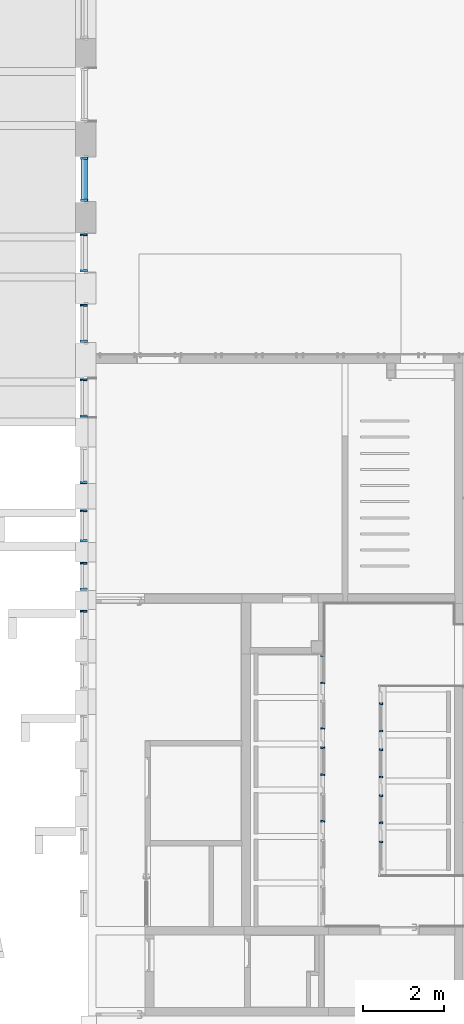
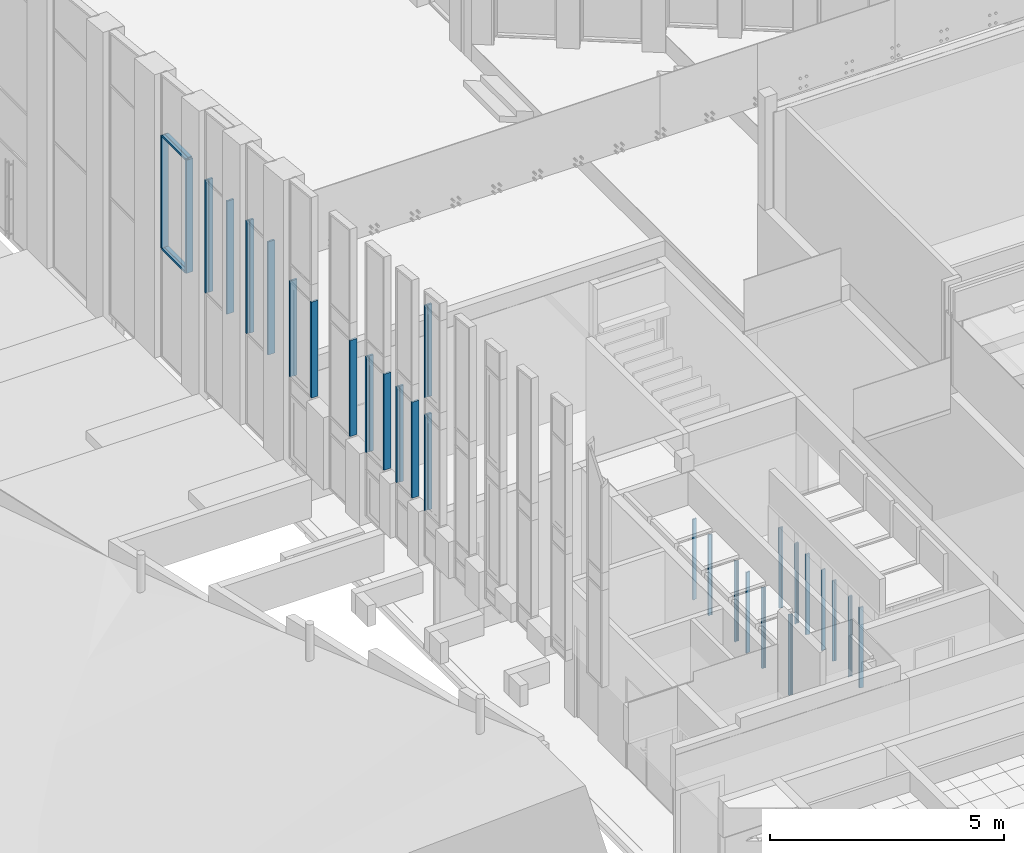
# One storey, part 6 of 246: 30 members, 10 elements without a shape of their own.
"""IFC2X3 building model written with IfcOpenShell, lengths in millimetres."""

from ifc_helpers import new_model, entity, si_unit, converted_unit, derived_unit, money_unit, direction, frame, origin_with_axes, place, context, subcontext, project, spatial, faceted_brep, source, transform, mapped, material, material_list, type_object, element, aggregate, save


model = new_model("IFC2X3")

# Units and contexts
model_context = context("Model", 3, precision=0.01, world=origin_with_axes(), true_north=direction((0.0, 1.0)))
body_context = subcontext(model_context, "Body", "Model", "MODEL_VIEW")
ifc_project = project(units=[si_unit("LENGTHUNIT", "METRE", prefix="MILLI"), si_unit("AREAUNIT", "SQUARE_METRE"), si_unit("VOLUMEUNIT", "CUBIC_METRE"), converted_unit("PLANEANGLEUNIT", "DEGREE", entity("IfcPlaneAngleMeasure", 0.0174532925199), si_unit("PLANEANGLEUNIT", "RADIAN"), dimensions=[0, 0, 0, 0, 0, 0, 0]), si_unit("SOLIDANGLEUNIT", "STERADIAN"), money_unit("EUR"), converted_unit("TIMEUNIT", "Year", entity("IfcTimeMeasure", 31556926.0), si_unit("TIMEUNIT", "SECOND"), dimensions=[0, 0, 1, 0, 0, 0, 0]), si_unit("MASSUNIT", "GRAM", prefix="KILO"), si_unit("THERMODYNAMICTEMPERATUREUNIT", "DEGREE_CELSIUS"), si_unit("LUMINOUSINTENSITYUNIT", "LUMEN"), si_unit("ENERGYUNIT", "JOULE", prefix="MEGA"), derived_unit("THERMALCONDUCTANCEUNIT", [(si_unit("POWERUNIT", "WATT"), 1), (si_unit("LENGTHUNIT", "METRE"), -1), (si_unit("THERMODYNAMICTEMPERATUREUNIT", "KELVIN"), -1)]), derived_unit("SPECIFICHEATCAPACITYUNIT", [(si_unit("ENERGYUNIT", "JOULE"), 1), (si_unit("MASSUNIT", "GRAM", prefix="KILO"), -1), (si_unit("THERMODYNAMICTEMPERATUREUNIT", "KELVIN"), -1)]), derived_unit("MASSDENSITYUNIT", [(si_unit("MASSUNIT", "GRAM", prefix="KILO"), 1), (si_unit("VOLUMEUNIT", "CUBIC_METRE"), -1)])], contexts=[model_context])

# Site, building, storey
site_placement = place(None, origin_with_axes())
site = spatial("IfcSite", under=ifc_project, at=site_placement, Name="L.Koidula tn 11b", CompositionType="ELEMENT")
building_placement = place(site_placement, origin_with_axes())
building = spatial("IfcBuilding", under=site, at=building_placement, Name="Rakvere Riigigümnaasium", CompositionType="ELEMENT")
storey_placement = place(building_placement, origin_with_axes())
storey = spatial("IfcBuildingStorey", under=building, at=storey_placement, Name="1.korrus 0,00", CompositionType="ELEMENT", Elevation=0.0)

# Curtain wall, members
curtain_wall_type = type_object("IfcCurtainWallType", Name="Curtain Wall Type", PredefinedType="NOTDEFINED")
curtain_wall_1_placement = place(storey_placement, frame((35156.0871538, 30435.4555151, 1604.94683277), z_axis=(0.0, 0.0, 1.0), x_axis=(1.0, 0.0, 0.0)))
curtain_wall_1 = element("IfcCurtainWall", 1, at=curtain_wall_1_placement, inside=storey, type_object=curtain_wall_type, Name="KLF-04-01")
ifc_material_1 = material(Name="Alumiiniumprofiil (RAL 7021)")
member_type_1 = type_object("IfcMemberType", Name="Boundary Frame 50 x 170", PredefinedType="MULLION")
shared_shape_1 = source(origin_with_axes(), body_context, "Body", "Brep", [
    faceted_brep([(37.0, -26.0, 2500.00000122), (37.0, 26.0, 2500.00000122), (50.0, 26.0, 2500.00000122), (50.0, 46.0, 2500.00000122), (0.0, 46.0, 2500.00000122), (0.0, -124.0, 2500.00000122), (50.0, -124.0, 2500.00000122), (50.0, -26.0, 2500.00000122), (37.0, -26.0, 0.0), (37.0, 26.0, 0.0), (50.0, 26.0, 0.0), (50.0, 46.0, 0.0), (0.0, 46.0, 0.0), (0.0, -124.0, 0.0), (50.0, -124.0, 0.0), (50.0, -26.0, 0.0)], [[[0, 1, 2, 3, 4, 5, 6, 7]], [[1, 0, 8, 9]], [[10, 2, 1, 9]], [[2, 10, 11, 3]], [[12, 4, 3, 11]], [[13, 5, 4, 12]], [[14, 6, 5, 13]], [[15, 7, 6, 14]], [[0, 7, 15, 8]], [[8, 15, 14, 13, 12, 11, 10, 9]]]),
])
member_1_placement = place(curtain_wall_1_placement, frame((0.0, -475.000067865, 2140.00006988), z_axis=(0.0, 0.0, 1.0), x_axis=(0.0, 1.0, 0.0)))
member_1 = element("IfcMember", 2, at=member_1_placement, type_object=member_type_1, material=ifc_material_1, Name="KLF-04-54-Profiilid", ObjectType="MULLION", context=body_context, shape_type="MappedRepresentation", body=[
    mapped(shared_shape_1, transform((0.0, 0.0, 0.0))),
])
member_2_placement = place(curtain_wall_1_placement, frame((0.0, 475.000067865, 4640.00006988), z_axis=(0.0, 0.0, -1.0), x_axis=(0.0, -1.0, 0.0)))
member_2 = element("IfcMember", 3, at=member_2_placement, type_object=member_type_1, material=ifc_material_1, Name="KLF-04-60-Profiilid", ObjectType="MULLION", context=body_context, shape_type="MappedRepresentation", body=[
    mapped(shared_shape_1, transform((0.0, 0.0, 0.0))),
])
aggregate(curtain_wall_1, [member_1, member_2])

# Curtain wall, member
curtain_wall_2_placement = place(storey_placement, frame((35156.0871538, 28760.4555979, 1840.0), z_axis=(0.0, 0.0, 1.0), x_axis=(1.0, 0.0, 0.0)))
curtain_wall_2 = element("IfcCurtainWall", 4, at=curtain_wall_2_placement, inside=storey, type_object=curtain_wall_type, Name="KLF-04-02")
member_3_placement = place(curtain_wall_2_placement, frame((0.0, -449.999957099, 1905.00005204), z_axis=(0.0, 0.0, 1.0), x_axis=(0.0, 1.0, 0.0)))
member_3 = element("IfcMember", 5, at=member_3_placement, type_object=member_type_1, material=ifc_material_1, Name="KLF-04-92-Profiilid", ObjectType="MULLION", context=body_context, shape_type="MappedRepresentation", body=[
    mapped(shared_shape_1, transform((0.0, 0.0, 0.0))),
])
aggregate(curtain_wall_2, [member_3])

# Curtain wall, members
curtain_wall_3_placement = place(storey_placement, frame((35156.0871538, 27260.4554897, 2070.0), z_axis=(0.0, 0.0, 1.0), x_axis=(1.0, 0.0, 0.0)))
curtain_wall_3 = element("IfcCurtainWall", 6, at=curtain_wall_3_placement, inside=storey, type_object=curtain_wall_type, Name="KLF-04-03")
member_4_placement = place(curtain_wall_3_placement, frame((0.0, 399.999995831, 4175.00005204), z_axis=(0.0, 0.0, -1.0), x_axis=(0.0, -1.0, 0.0)))
member_4 = element("IfcMember", 7, at=member_4_placement, type_object=member_type_1, material=ifc_material_1, Name="KLF-04-50-Profiilid", ObjectType="MULLION", context=body_context, shape_type="MappedRepresentation", body=[
    mapped(shared_shape_1, transform((0.0, 0.0, 0.0))),
])
member_5_placement = place(curtain_wall_3_placement, frame((0.0, -399.999995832, 1675.00005204), z_axis=(0.0, 0.0, 1.0), x_axis=(0.0, 1.0, 0.0)))
member_5 = element("IfcMember", 8, at=member_5_placement, type_object=member_type_1, material=ifc_material_1, Name="KLF-04-44-Profiilid", ObjectType="MULLION", context=body_context, shape_type="MappedRepresentation", body=[
    mapped(shared_shape_1, transform((0.0, 0.0, 0.0))),
])
aggregate(curtain_wall_3, [member_4, member_5])

curtain_wall_4_placement = place(storey_placement, frame((35156.0871538, 26010.4555274, 2305.0), z_axis=(0.0, 0.0, 1.0), x_axis=(1.0, 0.0, 0.0)))
curtain_wall_4 = element("IfcCurtainWall", 9, at=curtain_wall_4_placement, inside=storey, type_object=curtain_wall_type, Name="KLF-04-04")
member_6_placement = place(curtain_wall_4_placement, frame((0.0, 349.999977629, 3940.00005204), z_axis=(0.0, 0.0, -1.0), x_axis=(0.0, -1.0, 0.0)))
member_6 = element("IfcMember", 10, at=member_6_placement, type_object=member_type_1, material=ifc_material_1, Name="KLF-04-63-Profiilid", ObjectType="MULLION", context=body_context, shape_type="MappedRepresentation", body=[
    mapped(shared_shape_1, transform((0.0, 0.0, 0.0))),
])
member_7_placement = place(curtain_wall_4_placement, frame((0.0, -350.00003049, 1440.00005204), z_axis=(0.0, 4.2288553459e-08, 1.0), x_axis=(0.0, 1.0, -4.2288553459e-08)))
member_7 = element("IfcMember", 11, at=member_7_placement, type_object=member_type_1, material=ifc_material_1, Name="KLF-04-57-Profiilid", ObjectType="MULLION", context=body_context, shape_type="MappedRepresentation", body=[
    mapped(shared_shape_1, transform((0.0, 0.0, 0.0))),
])
aggregate(curtain_wall_4, [member_6, member_7])

# Curtain wall, member
curtain_wall_5_placement = place(storey_placement, frame((35156.0871538, 24810.4554726, 2540.0), z_axis=(0.0, 0.0, 1.0), x_axis=(1.0, 0.0, 0.0)))
curtain_wall_5 = element("IfcCurtainWall", 12, at=curtain_wall_5_placement, inside=storey, type_object=curtain_wall_type, Name="KLF-04-05")
member_8_placement = place(curtain_wall_5_placement, frame((0.0, 350.000000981, 3705.00005204), z_axis=(0.0, 0.0, -1.0), x_axis=(0.0, -1.0, 0.0)))
member_8 = element("IfcMember", 13, at=member_8_placement, type_object=member_type_1, material=ifc_material_1, Name="KLF-04-60-Profiilid", ObjectType="MULLION", context=body_context, shape_type="MappedRepresentation", body=[
    mapped(shared_shape_1, transform((0.0, 0.0, 0.0))),
])

# Curtain wall, members
curtain_wall_6_placement = place(storey_placement, frame((41170.0073165, 24038.4555472, 1.56205997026e-05), z_axis=(0.0, 0.0, 1.0), x_axis=(1.0, 0.0, 0.0)))
curtain_wall_6 = element("IfcCurtainWall", 14, at=curtain_wall_6_placement, inside=storey, type_object=curtain_wall_type, Name="SUS-01")
ifc_material_2 = material(Name="MDF")
ifc_material_3 = material(Name="Alumiiniumprofiil")
ifc_material_list = material_list([ifc_material_2, ifc_material_3])
member_type_2 = type_object("IfcMemberType", Name="SA-Siseuksesüsteem-V 46 x 0", PredefinedType="MULLION")
shared_shape_2 = source(origin_with_axes(), body_context, "Body", "Brep", [
    faceted_brep([(-1.99999958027, 10.0000006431, 0.0), (-33.9999997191, 9.99997870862, 0.0), (-33.9999997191, 9.99997870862, 2099.99998859), (-1.99999958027, 10.0000006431, 2099.99998859), (-2.00000095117, 0.0, 0.0), (-33.9999997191, 0.0, 0.0), (-33.9999997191, 0.0, 2099.99998859), (-2.00000095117, 0.0, 2099.99998859)], [[[0, 1, 2, 3]], [[0, 4, 5, 1]], [[1, 5, 6, 2]], [[3, 2, 6, 7]], [[4, 0, 3, 7]], [[5, 4, 7, 6]]]),
    faceted_brep([(10.0000006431, 91.9999779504, 0.0), (-33.9999997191, 91.9999779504, 0.0), (-33.9999997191, 91.9999779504, 2099.99998859), (10.0000006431, 91.9999779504, 2099.99998859), (10.0000294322, 81.9999773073, 0.0), (-33.9999997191, 81.9999773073, 0.0), (-33.9999997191, 81.9999773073, 2099.99998859), (10.0000294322, 81.9999773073, 2099.99998859)], [[[0, 1, 2, 3]], [[0, 4, 5, 1]], [[1, 5, 6, 2]], [[3, 2, 6, 7]], [[4, 0, 3, 7]], [[5, 4, 7, 6]]]),
    faceted_brep([(12.0000002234, 47.5000006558, 0.0), (12.0000002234, 91.9999779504, 0.0), (12.0000002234, 91.9999779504, 2099.99998859), (12.0000002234, 47.5000006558, 2099.99998859), (0.0, 47.5000006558, 0.0), (0.0, 32.9000011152, 0.0), (0.0, 0.0, 0.0), (-2.00000095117, 0.0, 0.0), (-1.99999958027, 10.0000006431, 0.0), (-2.00000095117, 10.49999951, 0.0), (-32.0000001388, 10.49999951, 0.0), (-32.0000001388, 9.99997870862, 0.0), (-33.9999997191, 9.99997870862, 0.0), (-33.9999997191, 13.9999998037, 0.0), (-22.4999997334, 13.9999998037, 0.0), (-22.4999997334, 44.3999997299, 0.0), (-33.9999997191, 44.3999997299, 0.0), (-33.9999997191, 47.600000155, 0.0), (-22.4999997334, 47.600000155, 0.0), (-22.4999997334, 78.0000000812, 0.0), (-33.9999997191, 78.0000000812, 0.0), (-33.9999997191, 81.5000003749, 0.0), (-24.2499991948, 81.5000003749, 0.0), (9.99999927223, 81.5000003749, 0.0), (10.0000294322, 81.9999773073, 0.0), (10.0000006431, 91.9999779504, 0.0), (10.0000006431, 91.9999779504, 2099.99998859), (10.0000294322, 81.9999773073, 2099.99998859), (9.99999927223, 81.5000003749, 2099.99998859), (-24.2499991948, 81.5000003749, 2099.99998859), (-33.9999997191, 81.5000003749, 2099.99998859), (-33.9999997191, 78.0000000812, 2099.99998859), (-22.4999997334, 78.0000000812, 2099.99998859), (-22.4999997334, 47.600000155, 2099.99998859), (-33.9999997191, 47.600000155, 2099.99998859), (-33.9999997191, 44.3999997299, 2099.99998859), (-22.4999997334, 44.3999997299, 2099.99998859), (-22.4999997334, 13.9999998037, 2099.99998859), (-33.9999997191, 13.9999998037, 2099.99998859), (-33.9999997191, 9.99997870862, 2099.99998859), (-32.0000001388, 9.99997870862, 2099.99998859), (-32.0000001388, 10.49999951, 2099.99998859), (-2.00000095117, 10.49999951, 2099.99998859), (-1.99999958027, 10.0000006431, 2099.99998859), (-2.00000095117, 0.0, 2099.99998859), (0.0, 0.0, 2099.99998859), (0.0, 32.9000011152, 2099.99998859), (0.0, 47.5000006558, 2099.99998859)], [[[0, 1, 2, 3]], [[0, 4, 5, 6, 7, 8, 9, 10, 11, 12, 13, 14, 15, 16, 17, 18, 19, 20, 21, 22, 23, 24, 25, 1]], [[1, 25, 26, 2]], [[3, 2, 26, 27, 28, 29, 30, 31, 32, 33, 34, 35, 36, 37, 38, 39, 40, 41, 42, 43, 44, 45, 46, 47]], [[4, 0, 3, 47]], [[5, 4, 47, 46]], [[6, 5, 46, 45]], [[7, 6, 45, 44]], [[8, 7, 44, 43]], [[9, 8, 43, 42]], [[10, 9, 42, 41]], [[11, 10, 41, 40]], [[12, 11, 40, 39]], [[13, 12, 39, 38]], [[14, 13, 38, 37]], [[15, 14, 37, 36]], [[16, 15, 36, 35]], [[17, 16, 35, 34]], [[18, 17, 34, 33]], [[19, 18, 33, 32]], [[20, 19, 32, 31]], [[21, 20, 31, 30]], [[22, 21, 30, 29]], [[23, 22, 29, 28]], [[24, 23, 28, 27]], [[25, 24, 27, 26]]]),
])
member_9_placement = place(curtain_wall_6_placement, frame((0.0, -667.000034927, -1.56205997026e-05), z_axis=(0.0, 0.0, 1.0), x_axis=(0.0, 1.0, 0.0)))
member_9 = element("IfcMember", 15, at=member_9_placement, type_object=member_type_2, material=ifc_material_list, Name="Frame-New-Frame-018", ObjectType="MULLION", context=body_context, shape_type="MappedRepresentation", body=[
    mapped(shared_shape_2, transform((0.0, 0.0, 0.0))),
])
member_10_placement = place(curtain_wall_6_placement, frame((0.0, -1797.00003493, -1.56205997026e-05), z_axis=(0.0, 0.0, 1.0), x_axis=(0.0, 1.0, 0.0)))
member_10 = element("IfcMember", 16, at=member_10_placement, type_object=member_type_2, material=ifc_material_list, Name="Frame-New-Frame-019", ObjectType="MULLION", context=body_context, shape_type="MappedRepresentation", body=[
    mapped(shared_shape_2, transform((0.0, 0.0, 0.0))),
])
member_11_placement = place(curtain_wall_6_placement, frame((0.0, -2947.00003493, -1.56205997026e-05), z_axis=(0.0, 0.0, 1.0), x_axis=(0.0, 1.0, 0.0)))
member_11 = element("IfcMember", 17, at=member_11_placement, type_object=member_type_2, material=ifc_material_list, Name="Frame-New-Frame-020", ObjectType="MULLION", context=body_context, shape_type="MappedRepresentation", body=[
    mapped(shared_shape_2, transform((0.0, 0.0, 0.0))),
])
member_12_placement = place(curtain_wall_6_placement, frame((0.0, -4097.00003493, -1.56205997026e-05), z_axis=(0.0, 0.0, 1.0), x_axis=(0.0, 1.0, 0.0)))
member_12 = element("IfcMember", 18, at=member_12_placement, type_object=member_type_2, material=ifc_material_list, Name="Frame-New-Frame-021", ObjectType="MULLION", context=body_context, shape_type="MappedRepresentation", body=[
    mapped(shared_shape_2, transform((0.0, 0.0, 0.0))),
])

curtain_wall_7_placement = place(storey_placement, frame((42519.9999626, 19079.4634323, 0.0), z_axis=(0.0, 0.0, 1.0), x_axis=(1.0, 0.0, 0.0)))
curtain_wall_7 = element("IfcCurtainWall", 19, at=curtain_wall_7_placement, inside=storey, type_object=curtain_wall_type, Name="SUS-02")
member_13_placement = place(curtain_wall_7_placement, frame((0.0, 325.007919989, 0.0), z_axis=(0.0, 0.0, 1.0), x_axis=(0.0, -1.0, 0.0)))
member_13 = element("IfcMember", 20, at=member_13_placement, type_object=member_type_2, material=ifc_material_list, Name="Frame-New-Frame-018", ObjectType="MULLION", context=body_context, shape_type="MappedRepresentation", body=[
    mapped(shared_shape_2, transform((0.0, 0.0, 0.0))),
])
member_14_placement = place(curtain_wall_7_placement, frame((0.0, 1470.00791999, 0.0), z_axis=(0.0, 0.0, 1.0), x_axis=(0.0, -1.0, 0.0)))
member_14 = element("IfcMember", 21, at=member_14_placement, type_object=member_type_2, material=ifc_material_list, Name="Frame-New-Frame-019", ObjectType="MULLION", context=body_context, shape_type="MappedRepresentation", body=[
    mapped(shared_shape_2, transform((0.0, 0.0, 0.0))),
])
member_15_placement = place(curtain_wall_7_placement, frame((0.0, 2610.00791999, 0.0), z_axis=(0.0, 0.0, 1.0), x_axis=(0.0, -1.0, 0.0)))
member_15 = element("IfcMember", 22, at=member_15_placement, type_object=member_type_2, material=ifc_material_list, Name="Frame-New-Frame-020", ObjectType="MULLION", context=body_context, shape_type="MappedRepresentation", body=[
    mapped(shared_shape_2, transform((0.0, 0.0, 0.0))),
])
member_16_placement = place(curtain_wall_7_placement, frame((0.0, 3750.00791999, 0.0), z_axis=(0.0, 0.0, 1.0), x_axis=(0.0, -1.0, 0.0)))
member_16 = element("IfcMember", 23, at=member_16_placement, type_object=member_type_2, material=ifc_material_list, Name="Frame-New-Frame-021", ObjectType="MULLION", context=body_context, shape_type="MappedRepresentation", body=[
    mapped(shared_shape_2, transform((0.0, 0.0, 0.0))),
])

# Member
shared_shape_3 = source(origin_with_axes(), body_context, "Body", "Brep", [
    faceted_brep([(37.0, -26.0, 2400.0), (37.0, 26.0, 2400.0), (50.0, 26.0, 2400.0), (50.0, 46.0, 2400.0), (0.0, 46.0, 2400.0), (0.0, -124.0, 2400.0), (50.0, -124.0, 2400.0), (50.0, -26.0, 2400.0), (37.0, -26.0, 0.0), (37.0, 26.0, 0.0), (50.0, 26.0, 0.0), (50.0, 46.0, 0.0), (0.0, 46.0, 0.0), (0.0, -124.0, 0.0), (50.0, -124.0, 0.0), (50.0, -26.0, 0.0)], [[[0, 1, 2, 3, 4, 5, 6, 7]], [[1, 0, 8, 9]], [[10, 2, 1, 9]], [[2, 10, 11, 3]], [[12, 4, 3, 11]], [[13, 5, 4, 12]], [[14, 6, 5, 13]], [[15, 7, 6, 14]], [[0, 7, 15, 8]], [[8, 15, 14, 13, 12, 11, 10, 9]]]),
])
member_17_placement = place(curtain_wall_5_placement, frame((0.0, 350.000000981, 6550.00005204), z_axis=(0.0, 0.0, -1.0), x_axis=(0.0, -1.0, 0.0)))
member_17 = element("IfcMember", 24, at=member_17_placement, type_object=member_type_1, material=ifc_material_1, Name="KLF-04-58-Profiilid", ObjectType="MULLION", context=body_context, shape_type="MappedRepresentation", body=[
    mapped(shared_shape_3, transform((0.0, 0.0, 0.0))),
])

aggregate(curtain_wall_5, [member_8, member_17])

# Curtain wall, member
curtain_wall_8_placement = place(storey_placement, frame((35166.0871538, 35860.1924029, 909.999937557), z_axis=(0.0, 0.0, 1.0), x_axis=(1.0, 0.0, 0.0)))
curtain_wall_8 = element("IfcCurtainWall", 25, at=curtain_wall_8_placement, inside=storey, type_object=curtain_wall_type, Name="KLF-03-04")
shared_shape_4 = source(origin_with_axes(), body_context, "Body", "Brep", [
    faceted_brep([(37.0, -26.0, 2945.00000007), (37.0, 26.0, 2945.00000007), (50.0, 26.0, 2945.00000007), (50.0, 46.0, 2945.00000007), (0.0, 46.0, 2945.00000007), (0.0, -124.0, 2945.00000007), (50.0, -124.0, 2945.00000007), (50.0, -26.0, 2945.00000007), (37.0, -26.0, -7.00453028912e-08), (37.0, 26.0, -7.00453028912e-08), (50.0, 26.0, -7.00453028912e-08), (50.0, 46.0, -7.00453028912e-08), (0.0, 46.0, -7.00453028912e-08), (0.0, -124.0, -7.00453028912e-08), (50.0, -124.0, -7.00453028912e-08), (50.0, -26.0, -7.00453028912e-08)], [[[0, 1, 2, 3, 4, 5, 6, 7]], [[1, 0, 8, 9]], [[10, 2, 1, 9]], [[2, 10, 11, 3]], [[12, 4, 3, 11]], [[13, 5, 4, 12]], [[14, 6, 5, 13]], [[15, 7, 6, 14]], [[0, 7, 15, 8]], [[8, 15, 14, 13, 12, 11, 10, 9]]]),
])
member_18_placement = place(curtain_wall_8_placement, frame((0.0, -549.999920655, 2835.0000985), z_axis=(0.0, -2.98766427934e-08, 1.0), x_axis=(0.0, 1.0, 2.98766427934e-08)))
member_18 = element("IfcMember", 26, at=member_18_placement, type_object=member_type_1, material=ifc_material_1, Name="KLF-03-58-Profiilid", ObjectType="MULLION", context=body_context, shape_type="MappedRepresentation", body=[
    mapped(shared_shape_4, transform((0.0, 0.0, 0.0))),
])

# Curtain wall, members
curtain_wall_9_placement = place(storey_placement, frame((35156.0871538, 34035.34119, 1144.99990202), z_axis=(0.0, 0.0, 1.0), x_axis=(1.0, 0.0, 0.0)))
curtain_wall_9 = element("IfcCurtainWall", 27, at=curtain_wall_9_placement, inside=storey, type_object=curtain_wall_type, Name="KLF-03-05")
member_19_placement = place(curtain_wall_9_placement, frame((0.0, 475.000039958, 5545.00013945), z_axis=(0.0, 0.0, -1.0), x_axis=(0.0, -1.0, 0.0)))
member_19 = element("IfcMember", 28, at=member_19_placement, type_object=member_type_1, material=ifc_material_1, Name="KLF-03-29-Profiilid", ObjectType="MULLION", context=body_context, shape_type="MappedRepresentation", body=[
    mapped(shared_shape_4, transform((0.0, 0.0, 0.0))),
])
member_20_placement = place(curtain_wall_9_placement, frame((0.0, -475.000016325, 2600.00013945), z_axis=(0.0, -1.60498696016e-08, 1.0), x_axis=(0.0, 1.0, 1.60498696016e-08)))
member_20 = element("IfcMember", 29, at=member_20_placement, type_object=member_type_1, material=ifc_material_1, Name="KLF-03-25-Profiilid", ObjectType="MULLION", context=body_context, shape_type="MappedRepresentation", body=[
    mapped(shared_shape_4, transform((0.0, 0.0, 0.0))),
])
aggregate(curtain_wall_9, [member_19, member_20])

curtain_wall_10_placement = place(storey_placement, frame((35156.0871538, 32285.4558039, 1374.99993164), z_axis=(0.0, 0.0, 1.0), x_axis=(1.0, 0.0, 0.0)))
curtain_wall_10 = element("IfcCurtainWall", 30, at=curtain_wall_10_placement, inside=storey, type_object=curtain_wall_type, Name="KLF-03-06")
member_21_placement = place(curtain_wall_10_placement, frame((0.0, 474.999815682, 5315.00014685), z_axis=(0.0, 0.0, -1.0), x_axis=(0.0, -1.0, 0.0)))
member_21 = element("IfcMember", 31, at=member_21_placement, type_object=member_type_1, material=ifc_material_1, Name="KLF-03-56-Profiilid", ObjectType="MULLION", context=body_context, shape_type="MappedRepresentation", body=[
    mapped(shared_shape_4, transform((0.0, 0.0, 0.0))),
])
member_22_placement = place(curtain_wall_10_placement, frame((0.0, -474.999970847, 2370.00014685), z_axis=(0.0, 4.11700271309e-08, 1.0), x_axis=(0.0, 1.0, -4.11700271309e-08)))
member_22 = element("IfcMember", 32, at=member_22_placement, type_object=member_type_1, material=ifc_material_1, Name="KLF-03-52-Profiilid", ObjectType="MULLION", context=body_context, shape_type="MappedRepresentation", body=[
    mapped(shared_shape_4, transform((0.0, 0.0, 0.0))),
])
aggregate(curtain_wall_10, [member_21, member_22])

# Member
member_type_3 = type_object("IfcMemberType", Name="SA-Siseuksesüsteem-P 46 x 0", PredefinedType="MULLION")
shared_shape_5 = source(origin_with_axes(), body_context, "Body", "Brep", [
    faceted_brep([(33.9999997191, 9.99997870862, 0.0), (1.99999958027, 10.0000006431, 0.0), (1.99999958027, 10.0000006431, 2099.99998859), (33.9999997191, 9.99997870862, 2099.99998859), (33.9999997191, 0.0, 0.0), (1.99999958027, 0.0, 0.0), (1.99999958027, 0.0, 2099.99998859), (33.9999997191, 0.0, 2099.99998859)], [[[0, 1, 2, 3]], [[0, 4, 5, 1]], [[1, 5, 6, 2]], [[3, 2, 6, 7]], [[4, 0, 3, 7]], [[5, 4, 7, 6]]]),
    faceted_brep([(33.9999997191, 91.9999779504, 0.0), (-10.0000294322, 91.9999779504, 0.0), (-10.0000294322, 91.9999779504, 2099.99998859), (33.9999997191, 91.9999779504, 2099.99998859), (33.9999997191, 81.9999773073, 0.0), (-10.0000294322, 81.9999773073, 0.0), (-10.0000294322, 81.9999773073, 2099.99998859), (33.9999997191, 81.9999773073, 2099.99998859)], [[[0, 1, 2, 3]], [[0, 4, 5, 1]], [[1, 5, 6, 2]], [[3, 2, 6, 7]], [[4, 0, 3, 7]], [[5, 4, 7, 6]]]),
    faceted_brep([(-12.0000002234, 47.5000006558, 0.0), (0.0, 47.5000006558, 0.0), (0.0, 47.5000006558, 2099.99998859), (-12.0000002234, 47.5000006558, 2099.99998859), (-12.0000002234, 91.9999779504, 0.0), (-10.0000006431, 91.9999779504, 0.0), (-10.0000294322, 81.9999773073, 0.0), (-9.99999927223, 81.5000003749, 0.0), (24.2499991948, 81.5000003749, 0.0), (33.9999997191, 81.5000003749, 0.0), (33.9999997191, 78.0000000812, 0.0), (22.4999997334, 78.0000000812, 0.0), (22.4999997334, 47.600000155, 0.0), (33.9999997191, 47.600000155, 0.0), (33.9999997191, 44.3999997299, 0.0), (22.4999997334, 44.3999997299, 0.0), (22.4999997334, 13.9999998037, 0.0), (33.9999997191, 13.9999998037, 0.0), (33.9999997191, 9.99997870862, 0.0), (32.0000001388, 9.99997870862, 0.0), (32.0000001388, 10.49999951, 0.0), (2.00000095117, 10.49999951, 0.0), (1.99999958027, 10.0000006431, 0.0), (2.00000095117, 0.0, 0.0), (0.0, 0.0, 0.0), (0.0, 32.9000011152, 0.0), (0.0, 32.9000011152, 2099.99998859), (0.0, 0.0, 2099.99998859), (2.00000095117, 0.0, 2099.99998859), (1.99999958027, 10.0000006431, 2099.99998859), (2.00000095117, 10.49999951, 2099.99998859), (32.0000001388, 10.49999951, 2099.99998859), (32.0000001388, 9.99997870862, 2099.99998859), (33.9999997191, 9.99997870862, 2099.99998859), (33.9999997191, 13.9999998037, 2099.99998859), (22.4999997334, 13.9999998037, 2099.99998859), (22.4999997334, 44.3999997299, 2099.99998859), (33.9999997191, 44.3999997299, 2099.99998859), (33.9999997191, 47.600000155, 2099.99998859), (22.4999997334, 47.600000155, 2099.99998859), (22.4999997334, 78.0000000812, 2099.99998859), (33.9999997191, 78.0000000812, 2099.99998859), (33.9999997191, 81.5000003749, 2099.99998859), (24.2499991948, 81.5000003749, 2099.99998859), (-9.99999927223, 81.5000003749, 2099.99998859), (-10.0000294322, 81.9999773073, 2099.99998859), (-10.0000006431, 91.9999779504, 2099.99998859), (-12.0000002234, 91.9999779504, 2099.99998859)], [[[0, 1, 2, 3]], [[0, 4, 5, 6, 7, 8, 9, 10, 11, 12, 13, 14, 15, 16, 17, 18, 19, 20, 21, 22, 23, 24, 25, 1]], [[1, 25, 26, 2]], [[3, 2, 26, 27, 28, 29, 30, 31, 32, 33, 34, 35, 36, 37, 38, 39, 40, 41, 42, 43, 44, 45, 46, 47]], [[4, 0, 3, 47]], [[5, 4, 47, 46]], [[6, 5, 46, 45]], [[7, 6, 45, 44]], [[8, 7, 44, 43]], [[9, 8, 43, 42]], [[10, 9, 42, 41]], [[11, 10, 41, 40]], [[12, 11, 40, 39]], [[13, 12, 39, 38]], [[14, 13, 38, 37]], [[15, 14, 37, 36]], [[16, 15, 36, 35]], [[17, 16, 35, 34]], [[18, 17, 34, 33]], [[19, 18, 33, 32]], [[20, 19, 32, 31]], [[21, 20, 31, 30]], [[22, 21, 30, 29]], [[23, 22, 29, 28]], [[24, 23, 28, 27]], [[25, 24, 27, 26]]]),
])
member_23_placement = place(curtain_wall_6_placement, frame((0.0, -17.0, -1.56205997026e-05), z_axis=(0.0, 0.0, 1.0), x_axis=(0.0, 1.0, 0.0)))
member_23 = element("IfcMember", 33, at=member_23_placement, type_object=member_type_3, material=ifc_material_list, Name="Frame-SA-Siseuks-022", ObjectType="MULLION", context=body_context, shape_type="MappedRepresentation", body=[
    mapped(shared_shape_5, transform((0.0, 0.0, 0.0))),
])

member_24_placement = place(curtain_wall_6_placement, frame((0.0, -2297.00003493, -1.56205997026e-05), z_axis=(0.0, 0.0, 1.0), x_axis=(0.0, 1.0, 0.0)))
member_24 = element("IfcMember", 34, at=member_24_placement, type_object=member_type_3, material=ifc_material_list, Name="Frame-SA-Siseuks-018", ObjectType="MULLION", context=body_context, shape_type="MappedRepresentation", body=[
    mapped(shared_shape_5, transform((0.0, 0.0, 0.0))),
])

aggregate(curtain_wall_6, [member_23, member_9, member_10, member_24, member_11, member_12])

member_25_placement = place(curtain_wall_7_placement, frame((0.0, 820.007919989, 0.0), z_axis=(0.0, 0.0, 1.0), x_axis=(0.0, -1.0, 0.0)))
member_25 = element("IfcMember", 35, at=member_25_placement, type_object=member_type_3, material=ifc_material_list, Name="Frame-SA-Siseuks-018", ObjectType="MULLION", context=body_context, shape_type="MappedRepresentation", body=[
    mapped(shared_shape_5, transform((0.0, 0.0, 0.0))),
])

member_26_placement = place(curtain_wall_7_placement, frame((0.0, 1960.00791999, 0.0), z_axis=(0.0, 0.0, 1.0), x_axis=(0.0, -1.0, 0.0)))
member_26 = element("IfcMember", 36, at=member_26_placement, type_object=member_type_3, material=ifc_material_list, Name="Frame-SA-Siseuks-019", ObjectType="MULLION", context=body_context, shape_type="MappedRepresentation", body=[
    mapped(shared_shape_5, transform((0.0, 0.0, 0.0))),
])

member_27_placement = place(curtain_wall_7_placement, frame((0.0, 3100.00791999, 0.0), z_axis=(0.0, 0.0, 1.0), x_axis=(0.0, -1.0, 0.0)))
member_27 = element("IfcMember", 37, at=member_27_placement, type_object=member_type_3, material=ifc_material_list, Name="Frame-SA-Siseuks-020", ObjectType="MULLION", context=body_context, shape_type="MappedRepresentation", body=[
    mapped(shared_shape_5, transform((0.0, 0.0, 0.0))),
])

aggregate(curtain_wall_7, [member_13, member_25, member_14, member_26, member_15, member_27, member_16])

shared_shape_6 = source(origin_with_axes(), body_context, "Body", "Brep", [
    faceted_brep([(-37.0, -26.0, 2945.0), (-50.0, -26.0, 2945.0), (-50.0, -124.0, 2945.0), (0.0, -124.0, 2945.0), (0.0, 46.0, 2945.0), (-50.0, 46.0, 2945.0), (-50.0, 26.0, 2945.0), (-37.0, 26.0, 2945.0), (-37.0, -26.0, 0.0), (-50.0, -26.0, 0.0), (-50.0, -124.0, 0.0), (0.0, -124.0, 0.0), (0.0, 46.0, 0.0), (-50.0, 46.0, 0.0), (-50.0, 26.0, 0.0), (-37.0, 26.0, 0.0)], [[[0, 1, 2, 3, 4, 5, 6, 7]], [[0, 8, 9, 1]], [[9, 10, 2, 1]], [[10, 11, 3, 2]], [[11, 12, 4, 3]], [[12, 13, 5, 4]], [[6, 5, 13, 14]], [[14, 15, 7, 6]], [[7, 15, 8, 0]], [[8, 15, 14, 13, 12, 11, 10, 9]]]),
])
member_28_placement = place(curtain_wall_8_placement, frame((0.0, 549.999964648, 2835.0000985), z_axis=(0.0, 0.0, 1.0), x_axis=(0.0, 1.0, 0.0)))
member_28 = element("IfcMember", 38, at=member_28_placement, type_object=member_type_1, material=ifc_material_1, Name="KLF-03-62-Profiilid", ObjectType="MULLION", context=body_context, shape_type="MappedRepresentation", body=[
    mapped(shared_shape_6, transform((0.0, 0.0, 0.0))),
])

member_type_4 = type_object("IfcMemberType", Name="Transom Frame 50 x 170", PredefinedType="MULLION")
shared_shape_7 = source(origin_with_axes(), body_context, "Body", "Brep", [
    faceted_brep([(-12.0, -26.0, 1049.99997329), (-25.0, -26.0, 1049.99997329), (-25.0, -124.0, 1049.99997329), (25.0, -124.0, 1049.99997329), (25.0, -26.0, 1049.99997329), (12.0, -26.0, 1049.99997329), (12.0, 26.0, 1049.99997329), (25.0, 26.0, 1049.99997329), (25.0, 46.0, 1049.99997329), (-25.0, 46.0, 1049.99997329), (-25.0, 26.0, 1049.99997329), (-12.0, 26.0, 1049.99997329), (-12.0, -26.0, 50.0), (-25.0, -26.0, 50.0), (-25.0, -124.0, 50.0), (25.0, -124.0, 50.0), (25.0, -26.0, 50.0), (12.0, -26.0, 50.0), (12.0, 26.0, 50.0), (25.0, 26.0, 50.0), (25.0, 46.0, 50.0), (-25.0, 46.0, 50.0), (-25.0, 26.0, 50.0), (-12.0, 26.0, 50.0)], [[[0, 1, 2, 3, 4, 5, 6, 7, 8, 9, 10, 11]], [[1, 0, 12, 13]], [[1, 13, 14, 2]], [[2, 14, 15, 3]], [[4, 3, 15, 16]], [[4, 16, 17, 5]], [[5, 17, 18, 6]], [[7, 6, 18, 19]], [[19, 20, 8, 7]], [[8, 20, 21, 9]], [[22, 10, 9, 21]], [[11, 10, 22, 23]], [[0, 11, 23, 12]], [[23, 22, 21, 20, 19, 18, 17, 16, 15, 14, 13, 12]]]),
])
member_29_placement = place(curtain_wall_8_placement, frame((0.0, 549.999964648, 5780.0000985), z_axis=(0.0, -1.0, 0.0), x_axis=(0.0, 0.0, 1.0)))
member_29 = element("IfcMember", 39, at=member_29_placement, type_object=member_type_4, material=ifc_material_1, Name="KLF-03-11-Profiilid", ObjectType="MULLION", context=body_context, shape_type="MappedRepresentation", body=[
    mapped(shared_shape_7, transform((0.0, 0.0, 0.0))),
])

member_30_placement = place(curtain_wall_8_placement, frame((0.0, 549.999964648, 2835.0000985), z_axis=(0.0, -1.0, 0.0), x_axis=(0.0, 0.0, 1.0)))
member_30 = element("IfcMember", 40, at=member_30_placement, type_object=member_type_4, material=ifc_material_1, Name="KLF-03-12-Profiilid", ObjectType="MULLION", context=body_context, shape_type="MappedRepresentation", body=[
    mapped(shared_shape_7, transform((0.0, 0.0, 0.0))),
])

aggregate(curtain_wall_8, [member_28, member_29, member_30, member_18])

save(model, "model.ifc")
